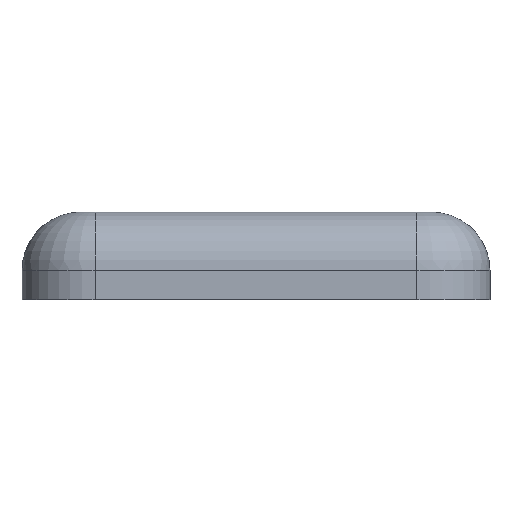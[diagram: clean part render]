
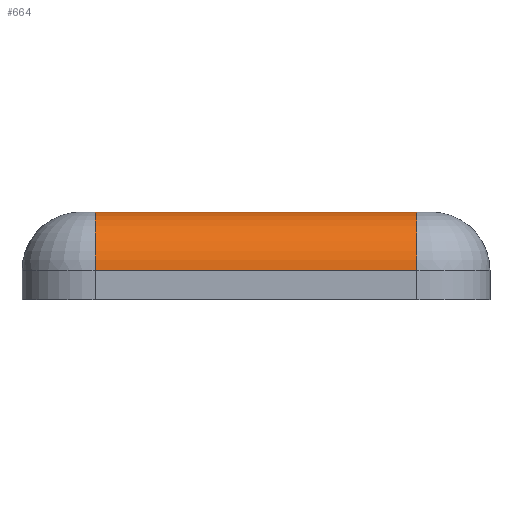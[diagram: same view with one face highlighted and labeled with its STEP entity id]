
A CAD part, front view. The second image highlights one B-rep face of the part: STEP entity #664.
In plain terms, the highlighted cylindrical face has radius 2 mm (diameter 4 mm), a partial arc.
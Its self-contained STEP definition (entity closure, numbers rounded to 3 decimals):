
#187 = DIRECTION ( 'NONE',  ( 0., 0., 1. ) ) ;
#268 = CARTESIAN_POINT ( 'NONE',  ( 0., 2., 1. ) ) ;
#285 = CARTESIAN_POINT ( 'NONE',  ( 13.5, 2., 3. ) ) ;
#398 = VECTOR ( 'NONE', #2561, 1000. ) ;
#525 = EDGE_CURVE ( 'NONE', #1057, #878, #4358, .T. ) ;
#555 = AXIS2_PLACEMENT_3D ( 'NONE', #268, #1911, #4765 ) ;
#566 = EDGE_CURVE ( 'NONE', #3227, #4410, #3745, .T. ) ;
#664 = ADVANCED_FACE ( 'NONE', ( #5193 ), #3516, .T. ) ;
#878 = VERTEX_POINT ( 'NONE', #2235 ) ;
#907 = LINE ( 'NONE', #2509, #398 ) ;
#1057 = VERTEX_POINT ( 'NONE', #1631 ) ;
#1330 = DIRECTION ( 'NONE',  ( 1., 0., 0. ) ) ;
#1631 = CARTESIAN_POINT ( 'NONE',  ( 2.5, 2., 3. ) ) ;
#1750 = CARTESIAN_POINT ( 'NONE',  ( 13.5, 2., 1. ) ) ;
#1911 = DIRECTION ( 'NONE',  ( 1., 0., 0. ) ) ;
#2235 = CARTESIAN_POINT ( 'NONE',  ( 2.5, 0., 1. ) ) ;
#2509 = CARTESIAN_POINT ( 'NONE',  ( 0., 0., 1. ) ) ;
#2561 = DIRECTION ( 'NONE',  ( -1., 0., 0. ) ) ;
#2600 = DIRECTION ( 'NONE',  ( 0., 0., -1. ) ) ;
#2629 = CARTESIAN_POINT ( 'NONE',  ( 2.5, 2., 1. ) ) ;
#2892 = AXIS2_PLACEMENT_3D ( 'NONE', #2629, #3875, #2600 ) ;
#3048 = LINE ( 'NONE', #4209, #4051 ) ;
#3123 = ORIENTED_EDGE ( 'NONE', *, *, #4232, .F. ) ;
#3227 = VERTEX_POINT ( 'NONE', #4042 ) ;
#3268 = ORIENTED_EDGE ( 'NONE', *, *, #3403, .F. ) ;
#3302 = ORIENTED_EDGE ( 'NONE', *, *, #525, .T. ) ;
#3403 = EDGE_CURVE ( 'NONE', #1057, #4410, #3048, .T. ) ;
#3516 = CYLINDRICAL_SURFACE ( 'NONE', #555, 2. ) ;
#3677 = EDGE_LOOP ( 'NONE', ( #3123, #4161, #3268, #3302 ) ) ;
#3745 = CIRCLE ( 'NONE', #5043, 2. ) ;
#3813 = DIRECTION ( 'NONE',  ( -1., 0., 0. ) ) ;
#3875 = DIRECTION ( 'NONE',  ( 1., 0., 0. ) ) ;
#4042 = CARTESIAN_POINT ( 'NONE',  ( 13.5, 0., 1. ) ) ;
#4051 = VECTOR ( 'NONE', #1330, 1000. ) ;
#4161 = ORIENTED_EDGE ( 'NONE', *, *, #566, .T. ) ;
#4209 = CARTESIAN_POINT ( 'NONE',  ( 0., 2., 3. ) ) ;
#4232 = EDGE_CURVE ( 'NONE', #3227, #878, #907, .T. ) ;
#4358 = CIRCLE ( 'NONE', #2892, 2. ) ;
#4410 = VERTEX_POINT ( 'NONE', #285 ) ;
#4765 = DIRECTION ( 'NONE',  ( 0., 0., -1. ) ) ;
#5043 = AXIS2_PLACEMENT_3D ( 'NONE', #1750, #3813, #187 ) ;
#5193 = FACE_OUTER_BOUND ( 'NONE', #3677, .T. ) ;
